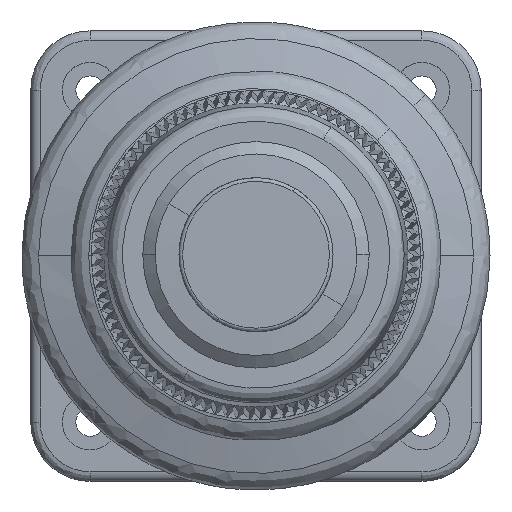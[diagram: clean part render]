
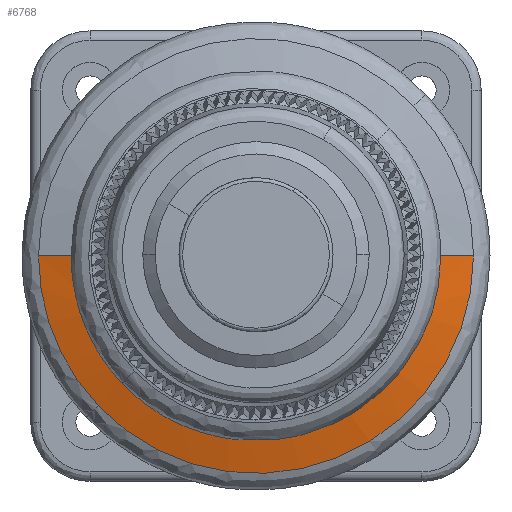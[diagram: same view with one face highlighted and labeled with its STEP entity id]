
A CAD part, top view. The second image highlights one B-rep face of the part: STEP entity #6768.
In plain terms, the highlighted conical face has half-angle 75 degrees and reference radius 11.437 mm.
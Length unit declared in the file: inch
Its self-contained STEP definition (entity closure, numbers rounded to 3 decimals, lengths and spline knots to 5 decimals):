
#1736 = EDGE_LOOP ( 'NONE', ( #5377, #5378, #5379, #5374, #5380, #5382 ) ) ;
#4730 = EDGE_CURVE ( 'NONE', #5608, #5610, #23473, .T. ) ;
#4734 = EDGE_CURVE ( 'NONE', #5613, #5612, #23485, .T. ) ;
#4738 = EDGE_CURVE ( 'NONE', #5616, #5608, #13774, .T. ) ;
#4741 = EDGE_CURVE ( 'NONE', #5613, #5616, #13775, .T. ) ;
#4746 = EDGE_CURVE ( 'NONE', #5618, #5612, #13778, .T. ) ;
#4747 = EDGE_CURVE ( 'NONE', #5610, #5618, #13779, .T. ) ;
#5374 = ORIENTED_EDGE ( 'NONE', *, *, #4734, .T. ) ;
#5377 = ORIENTED_EDGE ( 'NONE', *, *, #4730, .F. ) ;
#5378 = ORIENTED_EDGE ( 'NONE', *, *, #4738, .F. ) ;
#5379 = ORIENTED_EDGE ( 'NONE', *, *, #4741, .F. ) ;
#5380 = ORIENTED_EDGE ( 'NONE', *, *, #4746, .F. ) ;
#5382 = ORIENTED_EDGE ( 'NONE', *, *, #4747, .F. ) ;
#5608 = VERTEX_POINT ( 'NONE', #28862 ) ;
#5610 = VERTEX_POINT ( 'NONE', #28864 ) ;
#5612 = VERTEX_POINT ( 'NONE', #28866 ) ;
#5613 = VERTEX_POINT ( 'NONE', #28867 ) ;
#5616 = VERTEX_POINT ( 'NONE', #28870 ) ;
#5618 = VERTEX_POINT ( 'NONE', #28872 ) ;
#6768 = ADVANCED_FACE ( 'NONE', ( #30558 ), #28261, .T. ) ;
#13774 = CIRCLE ( 'NONE', #22753, 0.45029 ) ;
#13775 = CIRCLE ( 'NONE', #22757, 0.45029 ) ;
#13778 = CIRCLE ( 'NONE', #22758, 0.91724 ) ;
#13779 = CIRCLE ( 'NONE', #22760, 0.91724 ) ;
#22751 = VECTOR ( 'NONE', #23475, 39.37008 ) ;
#22753 = AXIS2_PLACEMENT_3D ( 'NONE', #23498, #23499, #23500 ) ;
#22755 = VECTOR ( 'NONE', #23487, 39.37008 ) ;
#22757 = AXIS2_PLACEMENT_3D ( 'NONE', #23509, #23510, #23511 ) ;
#22758 = AXIS2_PLACEMENT_3D ( 'NONE', #23526, #23527, #23528 ) ;
#22760 = AXIS2_PLACEMENT_3D ( 'NONE', #23529, #23530, #23531 ) ;
#23473 = LINE ( 'NONE', #23474, #22751 ) ;
#23474 = CARTESIAN_POINT ( 'NONE',  ( 0.4503, -0.00001, 0.49938 ) ) ;
#23475 = DIRECTION ( 'NONE',  ( 0.966, 0., -0.259 ) ) ;
#23485 = LINE ( 'NONE', #23486, #22755 ) ;
#23486 = CARTESIAN_POINT ( 'NONE',  ( -0.45028, -0.00001, 0.49938 ) ) ;
#23487 = DIRECTION ( 'NONE',  ( -0.966, 0., -0.259 ) ) ;
#23498 = CARTESIAN_POINT ( 'NONE',  ( 0.00001, -0.00001, 0.49938 ) ) ;
#23499 = DIRECTION ( 'NONE',  ( 0., 0., 1. ) ) ;
#23500 = DIRECTION ( 'NONE',  ( 0.724, 0.689, 0. ) ) ;
#23509 = CARTESIAN_POINT ( 'NONE',  ( 0.00001, -0.00001, 0.49938 ) ) ;
#23510 = DIRECTION ( 'NONE',  ( 0., 0., 1. ) ) ;
#23511 = DIRECTION ( 'NONE',  ( 0.724, 0.689, 0. ) ) ;
#23526 = CARTESIAN_POINT ( 'NONE',  ( 0.00001, -0.00001, 0.37426 ) ) ;
#23527 = DIRECTION ( 'NONE',  ( 0., 0., -1. ) ) ;
#23528 = DIRECTION ( 'NONE',  ( -1., 0., 0. ) ) ;
#23529 = CARTESIAN_POINT ( 'NONE',  ( 0.00001, -0.00001, 0.37426 ) ) ;
#23530 = DIRECTION ( 'NONE',  ( 0., 0., -1. ) ) ;
#23531 = DIRECTION ( 'NONE',  ( -1., 0., 0. ) ) ;
#28261 = CONICAL_SURFACE ( 'NONE', #30562, 0.45029, 1.309 ) ;
#28862 = CARTESIAN_POINT ( 'NONE',  ( 0.4503, -0.00001, 0.49938 ) ) ;
#28864 = CARTESIAN_POINT ( 'NONE',  ( 0.91725, -0.00001, 0.37426 ) ) ;
#28866 = CARTESIAN_POINT ( 'NONE',  ( -0.91723, -0.00001, 0.37426 ) ) ;
#28867 = CARTESIAN_POINT ( 'NONE',  ( -0.45028, -0.00001, 0.49938 ) ) ;
#28870 = CARTESIAN_POINT ( 'NONE',  ( -0.32621, -0.3104, 0.49938 ) ) ;
#28872 = CARTESIAN_POINT ( 'NONE',  ( -0.6645, -0.63228, 0.37426 ) ) ;
#30558 = FACE_OUTER_BOUND ( 'NONE', #1736, .T. ) ;
#30562 = AXIS2_PLACEMENT_3D ( 'NONE', #31714, #31725, #31726 ) ;
#31714 = CARTESIAN_POINT ( 'NONE',  ( 0.00001, -0.00001, 0.49938 ) ) ;
#31725 = DIRECTION ( 'NONE',  ( 0., 0., -1. ) ) ;
#31726 = DIRECTION ( 'NONE',  ( -1., 0., 0. ) ) ;
